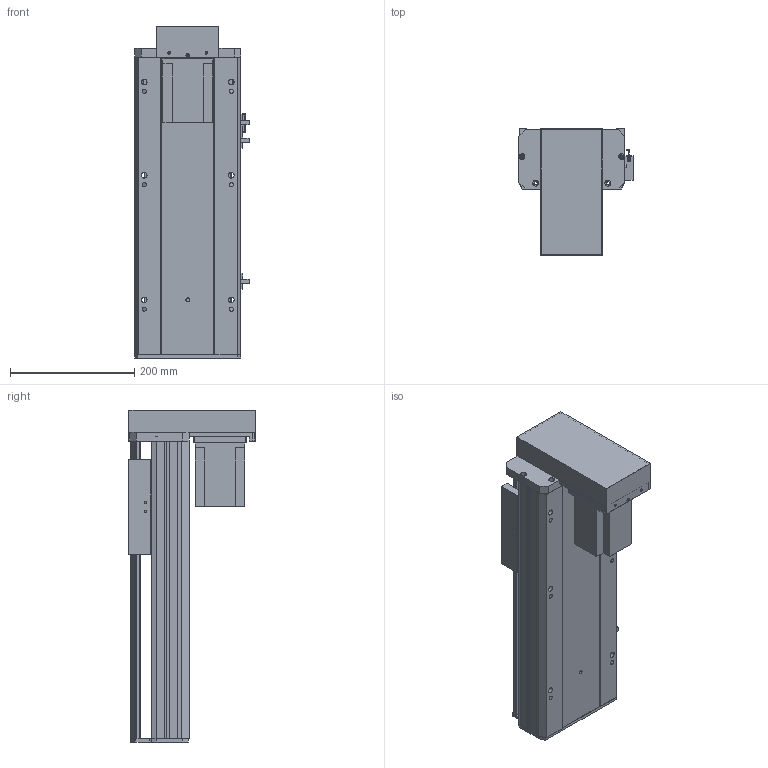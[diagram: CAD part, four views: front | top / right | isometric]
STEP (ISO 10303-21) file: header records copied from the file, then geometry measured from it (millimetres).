
FILE_DESCRIPTION (( 'STEP AP203' ), '1' );
FILE_NAME ('Y170-D10-S250-BM-P750W.STEP', '2020-01-22T02:50:04', ( '微软用户' ), ( '微软中国' ), 'SwSTEP 2.0', 'SolidWorks 2017', '' );
FILE_SCHEMA (( 'CONFIG_CONTROL_DESIGN' ));
Length unit declared in the file: millimetre
Products named in the file (12): 170-BM耜蚾蟀諉啣; Y170-BM--P750W楊擘啣; -BM俋袗; Y170耜裔--準---; YD-Y100-135-新外置传感挡片(通用）; 170--掛极-BR; 侂狟750W; EGH20賑輸_蕼偞; Y100-135俋离換覜ん; Y雄赽釱-耜蚾; Y170-D10-S250-BM-P750W; Y170-陔遴奻裔-BR
Assembly tree (14 placements, depth 2):
  Y170-D10-S250-BM-P750W
    Y170耜裔--準---
    170--掛极-BR
    侂狟750W
    EGH20賑輸_蕼偞  x2
    Y雄赽釱-耜蚾
    Y170-陔遴奻裔-BR
    170-BM耜蚾蟀諉啣
    Y170-BM--P750W楊擘啣
    -BM俋袗
    YD-Y100-135-新外置传感挡片(通用）
    Y100-135俋离換覜ん  x3
Bounding box: 183.5 x 203.5 x 533.5 mm (x, y, z)
Volume: 3268816.7 mm3; surface area: 1039643.8 mm2
Topology: 14 solids, 14 shells, 870 faces, 2412 edges, 1590 vertices
Faces by surface type: plane 436, cylinder 418, cone 16
Entity records: 26986 total; most frequent: CARTESIAN_POINT 4615, DIRECTION 4504, ORIENTED_EDGE 4320, EDGE_CURVE 2160, AXIS2_PLACEMENT_3D 1587, VERTEX_POINT 1434, VECTOR 1330, LINE 1330
